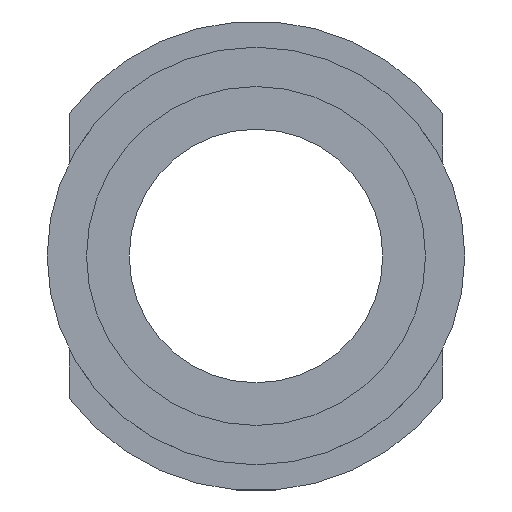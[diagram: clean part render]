
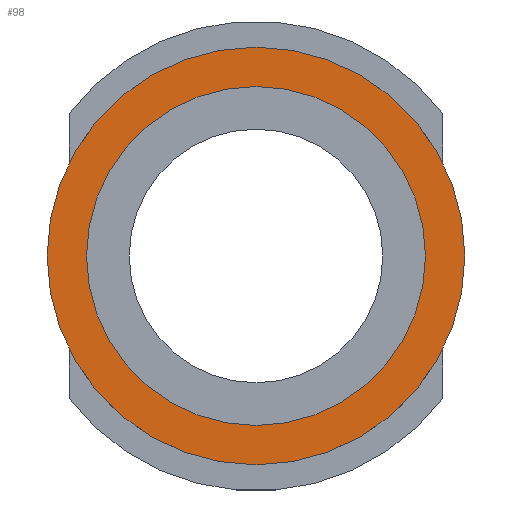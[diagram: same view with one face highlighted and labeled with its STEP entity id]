
A CAD part, left-side view. The second image highlights one B-rep face of the part: STEP entity #98.
In plain terms, the highlighted planar face has unit normal (-1, 0, 0).
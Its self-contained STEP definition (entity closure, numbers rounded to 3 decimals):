
#98 = ADVANCED_FACE( '', ( #167, #168 ), #169, .T. );
#167 = FACE_OUTER_BOUND( '', #259, .T. );
#168 = FACE_BOUND( '', #260, .T. );
#169 = PLANE( '', #261 );
#259 = EDGE_LOOP( '', ( #463 ) );
#260 = EDGE_LOOP( '', ( #464 ) );
#261 = AXIS2_PLACEMENT_3D( '', #465, #466, #467 );
#463 = ORIENTED_EDGE( '', *, *, #585, .T. );
#464 = ORIENTED_EDGE( '', *, *, #586, .F. );
#465 = CARTESIAN_POINT( '', ( -16.5, 0., 7.825 ) );
#466 = DIRECTION( '', ( -1., 0., 0. ) );
#467 = DIRECTION( '', ( 0., 0., 1. ) );
#585 = EDGE_CURVE( '', #686, #686, #687, .T. );
#586 = EDGE_CURVE( '', #688, #688, #689, .T. );
#686 = VERTEX_POINT( '', #830 );
#687 = CIRCLE( '', #831, 7.825 );
#688 = VERTEX_POINT( '', #832 );
#689 = CIRCLE( '', #833, 6.35 );
#830 = CARTESIAN_POINT( '', ( -16.5, 0., 7.825 ) );
#831 = AXIS2_PLACEMENT_3D( '', #947, #948, #949 );
#832 = CARTESIAN_POINT( '', ( -16.5, 0., 6.35 ) );
#833 = AXIS2_PLACEMENT_3D( '', #950, #951, #952 );
#947 = CARTESIAN_POINT( '', ( -16.5, 0., 0. ) );
#948 = DIRECTION( '', ( -1., 0., 0. ) );
#949 = DIRECTION( '', ( 0., 0., 1. ) );
#950 = CARTESIAN_POINT( '', ( -16.5, 0., 0. ) );
#951 = DIRECTION( '', ( -1., 0., 0. ) );
#952 = DIRECTION( '', ( 0., 0., 1. ) );
